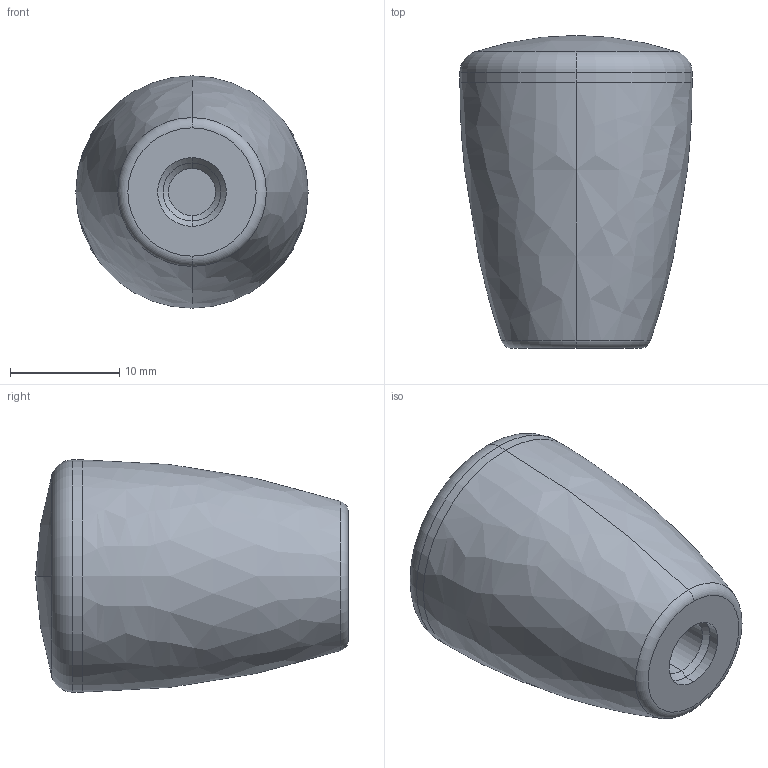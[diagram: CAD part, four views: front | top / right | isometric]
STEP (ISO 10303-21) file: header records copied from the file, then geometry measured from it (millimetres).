
FILE_DESCRIPTION(/* description */ (''),/* implementation_level */ '2;1');
FILE_NAME(/* name */ '47000721101.stp',/* time_stamp */ '2019-09-24T22:53:25+02:00',/* author */ (''),/* organization */ (''),/* preprocessor_version */ 'ST-DEVELOPER v16.7',/* originating_system */ 'SIEMENS PLM Software NX 12.0',/* authorisation */ '');
FILE_SCHEMA (('AUTOMOTIVE_DESIGN { 1 0 10303 214 3 1 1 1 }'));
Bounding box: 21.3 x 28.7 x 21.3 mm (x, y, z)
Volume: 7529.7 mm3; surface area: 2353.6 mm2
Topology: 1 solids, 1 shells, 20 faces, 40 edges, 23 vertices
Faces by surface type: cylinder 6, cone 4, torus 4, bspline 2, sphere 2, plane 2
Entity records: 572 total; most frequent: CRTPNT 114, DRCTN 108, ORNEDG 80, A2PL3D 49, EDGCRV 40, CIRCLE 30, VRTPNT 23, EDGLP 21
